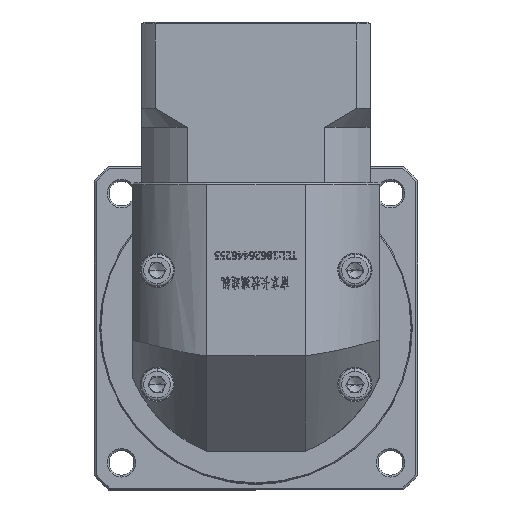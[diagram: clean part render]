
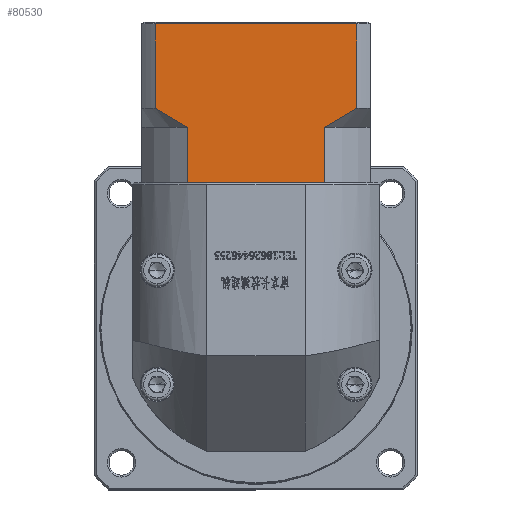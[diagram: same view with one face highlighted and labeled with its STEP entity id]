
A CAD part, top view. The second image highlights one B-rep face of the part: STEP entity #80530.
In plain terms, the highlighted planar face has unit normal (0, 0, 1).
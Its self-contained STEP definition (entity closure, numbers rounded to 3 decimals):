
#713 = DIRECTION ( 'NONE',  ( 0., -1., 0. ) ) ;
#1014 = EDGE_CURVE ( 'NONE', #73371, #137323, #136013, .T. ) ;
#1318 = ORIENTED_EDGE ( 'NONE', *, *, #1014, .F. ) ;
#1886 = CARTESIAN_POINT ( 'NONE',  ( -38.916, 55.986, 245.652 ) ) ;
#2312 = CARTESIAN_POINT ( 'NONE',  ( 5.713, 54.309, 245.652 ) ) ;
#8953 = CARTESIAN_POINT ( 'NONE',  ( -45.197, 38.259, 245.652 ) ) ;
#9551 = LINE ( 'NONE', #21641, #75372 ) ;
#15030 = CARTESIAN_POINT ( 'NONE',  ( -34.677, 53.507, 245.652 ) ) ;
#15292 = LINE ( 'NONE', #113776, #150820 ) ;
#15456 = CARTESIAN_POINT ( 'NONE',  ( 9.898, 56.857, 245.652 ) ) ;
#16369 = VERTEX_POINT ( 'NONE', #68660 ) ;
#17433 = CARTESIAN_POINT ( 'NONE',  ( -32.234, 38.259, 245.652 ) ) ;
#21641 = CARTESIAN_POINT ( 'NONE',  ( 11.261, 52.759, 245.652 ) ) ;
#21934 = EDGE_LOOP ( 'NONE', ( #154139, #70456, #157910, #37904, #1318, #93196, #145954, #161427, #98831, #169257 ) ) ;
#22319 = CARTESIAN_POINT ( 'NONE',  ( -41.654, 57.759, 245.652 ) ) ;
#23607 = DIRECTION ( 'NONE',  ( -1., 0., 0. ) ) ;
#31943 = VECTOR ( 'NONE', #713, 1000. ) ;
#37835 = VECTOR ( 'NONE', #100905, 1000. ) ;
#37904 = ORIENTED_EDGE ( 'NONE', *, *, #129067, .T. ) ;
#38662 = VERTEX_POINT ( 'NONE', #22319 ) ;
#39018 = CARTESIAN_POINT ( 'NONE',  ( -45.197, 38.259, 245.652 ) ) ;
#41252 = EDGE_CURVE ( 'NONE', #88109, #135319, #160012, .T. ) ;
#42531 = VECTOR ( 'NONE', #152510, 1000. ) ;
#52194 = DIRECTION ( 'NONE',  ( 1., 0., 0. ) ) ;
#53797 = DIRECTION ( 'NONE',  ( 0., 0., -1. ) ) ;
#55122 = VERTEX_POINT ( 'NONE', #71990 ) ;
#57846 = VECTOR ( 'NONE', #109091, 1000. ) ;
#58387 = EDGE_CURVE ( 'NONE', #145346, #16369, #9551, .T. ) ;
#58962 = CARTESIAN_POINT ( 'NONE',  ( 2.831, 52.759, 245.652 ) ) ;
#59535 = VECTOR ( 'NONE', #52194, 1000. ) ;
#60767 = CARTESIAN_POINT ( 'NONE',  ( -41.654, 52.759, 245.652 ) ) ;
#61287 = DIRECTION ( 'NONE',  ( 0., -1., 0. ) ) ;
#63026 = EDGE_CURVE ( 'NONE', #71684, #135319, #66890, .T. ) ;
#66526 = PLANE ( 'NONE',  #89525 ) ;
#66890 = LINE ( 'NONE', #157857, #31943 ) ;
#67352 = CARTESIAN_POINT ( 'NONE',  ( -41.654, 57.759, 245.652 ) ) ;
#68660 = CARTESIAN_POINT ( 'NONE',  ( 11.261, 57.759, 245.652 ) ) ;
#70456 = ORIENTED_EDGE ( 'NONE', *, *, #80077, .T. ) ;
#71684 = VERTEX_POINT ( 'NONE', #58962 ) ;
#71990 = CARTESIAN_POINT ( 'NONE',  ( -41.654, 79.959, 245.652 ) ) ;
#73371 = VERTEX_POINT ( 'NONE', #92514 ) ;
#75372 = VECTOR ( 'NONE', #61287, 1000. ) ;
#75556 = EDGE_CURVE ( 'NONE', #73371, #153692, #123584, .T. ) ;
#80077 = EDGE_CURVE ( 'NONE', #145346, #55122, #15292, .T. ) ;
#80493 = CARTESIAN_POINT ( 'NONE',  ( -40.295, 56.859, 245.652 ) ) ;
#80530 = ADVANCED_FACE ( 'NONE', ( #103393 ), #66526, .F. ) ;
#88109 = VERTEX_POINT ( 'NONE', #148322 ) ;
#89525 = AXIS2_PLACEMENT_3D ( 'NONE', #132449, #53797, #145632 ) ;
#90539 = B_SPLINE_CURVE_WITH_KNOTS ( 'NONE', 3,
 ( #67352, #80493, #1886, #93761, #15030, #106955 ),
 .UNSPECIFIED., .F., .F.,
 ( 4, 2, 4 ),
 ( 0.052, 0.057, 0.062 ),
 .UNSPECIFIED. ) ;
#92108 = B_SPLINE_CURVE_WITH_KNOTS ( 'NONE', 3,
 ( #133151, #167467, #2312, #94179, #15456, #107378 ),
 .UNSPECIFIED., .F., .F.,
 ( 4, 2, 4 ),
 ( 0.1, 0.104, 0.109 ),
 .UNSPECIFIED. ) ;
#92514 = CARTESIAN_POINT ( 'NONE',  ( -33.225, 38.259, 245.652 ) ) ;
#93196 = ORIENTED_EDGE ( 'NONE', *, *, #75556, .T. ) ;
#93761 = CARTESIAN_POINT ( 'NONE',  ( -36.108, 54.31, 245.652 ) ) ;
#94179 = CARTESIAN_POINT ( 'NONE',  ( 8.518, 55.983, 245.652 ) ) ;
#95731 = CARTESIAN_POINT ( 'NONE',  ( -33.225, 52.759, 245.652 ) ) ;
#98831 = ORIENTED_EDGE ( 'NONE', *, *, #63026, .F. ) ;
#100905 = DIRECTION ( 'NONE',  ( 1., 0., 0. ) ) ;
#101179 = VECTOR ( 'NONE', #116042, 1000. ) ;
#103393 = FACE_OUTER_BOUND ( 'NONE', #21934, .T. ) ;
#106955 = CARTESIAN_POINT ( 'NONE',  ( -33.225, 52.759, 245.652 ) ) ;
#107332 = EDGE_CURVE ( 'NONE', #71684, #16369, #92108, .T. ) ;
#107378 = CARTESIAN_POINT ( 'NONE',  ( 11.261, 57.759, 245.652 ) ) ;
#109091 = DIRECTION ( 'NONE',  ( 1., 0., 0. ) ) ;
#111369 = CARTESIAN_POINT ( 'NONE',  ( 11.261, 79.959, 245.652 ) ) ;
#113771 = CARTESIAN_POINT ( 'NONE',  ( 2.831, 38.259, 245.652 ) ) ;
#113776 = CARTESIAN_POINT ( 'NONE',  ( -45.197, 79.959, 245.652 ) ) ;
#116042 = DIRECTION ( 'NONE',  ( 0., 1., 0. ) ) ;
#121239 = EDGE_CURVE ( 'NONE', #153692, #88109, #138453, .T. ) ;
#123584 = LINE ( 'NONE', #148036, #57846 ) ;
#129067 = EDGE_CURVE ( 'NONE', #38662, #137323, #90539, .T. ) ;
#132449 = CARTESIAN_POINT ( 'NONE',  ( -45.197, 80.459, 245.652 ) ) ;
#133151 = CARTESIAN_POINT ( 'NONE',  ( 2.831, 52.759, 245.652 ) ) ;
#135319 = VERTEX_POINT ( 'NONE', #113771 ) ;
#136013 = LINE ( 'NONE', #142371, #101179 ) ;
#137323 = VERTEX_POINT ( 'NONE', #95731 ) ;
#138453 = LINE ( 'NONE', #8953, #37835 ) ;
#142371 = CARTESIAN_POINT ( 'NONE',  ( -33.225, 52.759, 245.652 ) ) ;
#143148 = LINE ( 'NONE', #60767, #42531 ) ;
#145346 = VERTEX_POINT ( 'NONE', #111369 ) ;
#145632 = DIRECTION ( 'NONE',  ( 0., 1., 0. ) ) ;
#145954 = ORIENTED_EDGE ( 'NONE', *, *, #121239, .T. ) ;
#148036 = CARTESIAN_POINT ( 'NONE',  ( -45.197, 38.259, 245.652 ) ) ;
#148322 = CARTESIAN_POINT ( 'NONE',  ( 1.84, 38.259, 245.652 ) ) ;
#150820 = VECTOR ( 'NONE', #23607, 1000. ) ;
#152510 = DIRECTION ( 'NONE',  ( 0., 1., 0. ) ) ;
#153692 = VERTEX_POINT ( 'NONE', #17433 ) ;
#154139 = ORIENTED_EDGE ( 'NONE', *, *, #58387, .F. ) ;
#157857 = CARTESIAN_POINT ( 'NONE',  ( 2.831, 52.759, 245.652 ) ) ;
#157910 = ORIENTED_EDGE ( 'NONE', *, *, #160038, .F. ) ;
#160012 = LINE ( 'NONE', #39018, #59535 ) ;
#160038 = EDGE_CURVE ( 'NONE', #38662, #55122, #143148, .T. ) ;
#161427 = ORIENTED_EDGE ( 'NONE', *, *, #41252, .T. ) ;
#167467 = CARTESIAN_POINT ( 'NONE',  ( 4.287, 53.509, 245.652 ) ) ;
#169257 = ORIENTED_EDGE ( 'NONE', *, *, #107332, .T. ) ;
